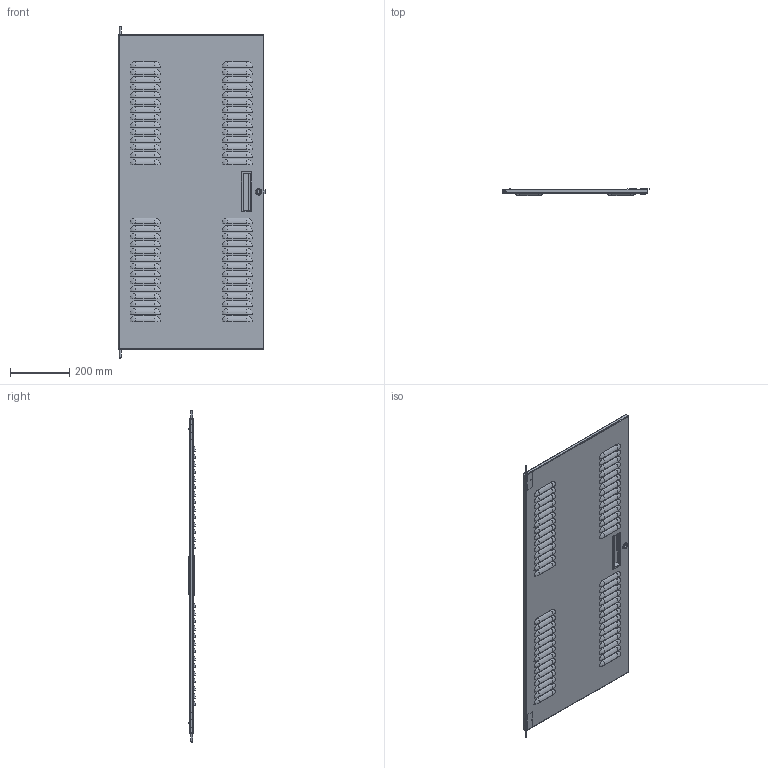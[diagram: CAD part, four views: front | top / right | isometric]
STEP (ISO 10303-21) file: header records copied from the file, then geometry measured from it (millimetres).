
FILE_DESCRIPTION( ( 'Unknown' ), '1' );
FILE_NAME( 'Q:/WEB DRAWINGS/STEP/CDF1942L.stp', 'Unknown', ( 'Unknown' ), ( 'Unknown' ), 'PSStep 17.0.49', 'Unknown', ' ' );
FILE_SCHEMA( ( 'AUTOMOTIVE_DESIGN { 1 0 10303 214 1 1 1 1 }' ) );
Length unit declared in the file: millimetre
Products named in the file (9): COM54617; HNG14581; std26020; COM53531; Assem1; HAN13044; LOC13312; PIN17620
Assembly tree (10 placements, depth 4):
  Assem1
    HAN13044
    LOC13312
    PIN17620  x2
    COM53531
      COM53531
      COM54617  x2
        HNG14581
        std26020
Bounding box: 496.67 x 22.99 x 1121.05 mm (x, y, z)
Volume: 891000.1 mm3; surface area: 1234797.5 mm2
Topology: 9 solids, 9 shells, 692 faces, 2053 edges, 1170 vertices
Faces by surface type: plane 285, sphere 224, cylinder 166, cone 9, torus 4, bspline 4
Full cylindrical faces by diameter (mm): 4.775 x2, 5.182 x2, 6.35 x8, 8.382 x1, 13.868 x1, 13.97 x1, 21.996 x1
Entity records: 26472 total; most frequent: DIRECTION 3924, CARTESIAN_POINT 3827, ORIENTED_EDGE 3456, EDGE_CURVE 1728, AXIS2_PLACEMENT_3D 1551, VERTEX_POINT 1114, CIRCLE 874, LINE 822
